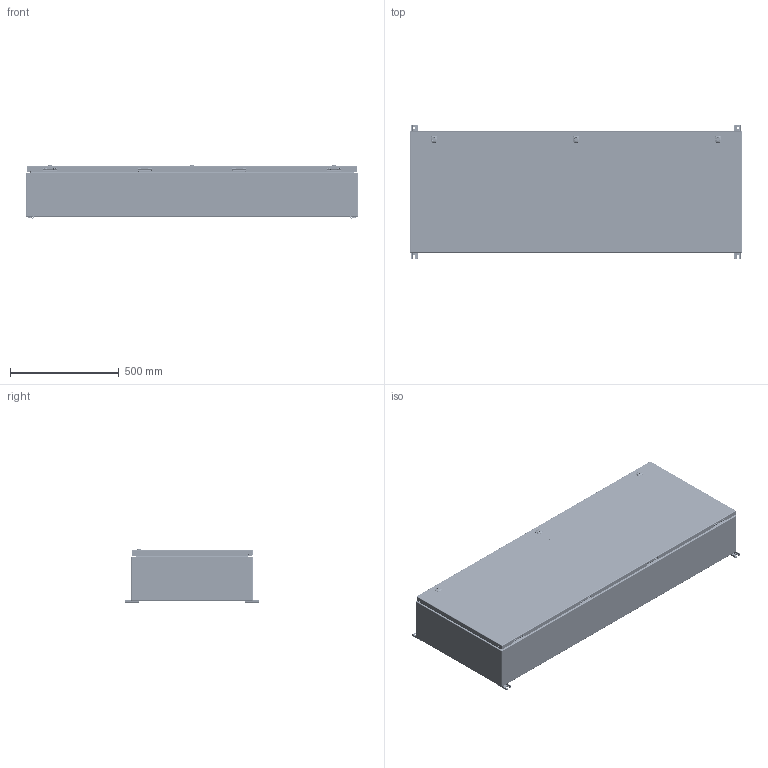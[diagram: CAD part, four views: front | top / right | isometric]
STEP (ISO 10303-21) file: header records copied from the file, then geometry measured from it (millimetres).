
FILE_DESCRIPTION(/* description */ ('1412BTSSCU 400A - 4 Wires x 60" Assembly'),/* implementation_level */ '2;1');
FILE_NAME(/* name */ 'C:\Vault_Workspace\Inventor_Dwg\BoxCad\Result\1412BTSSCU05404\e-mail\3D\1412BTSSCU05404.stp',/* time_stamp */ '2022-09-02T09:41:17-04:00',/* author */ ('BoxCad'),/* organization */ (''),/* preprocessor_version */ 'ST-DEVELOPER v18.1',/* originating_system */ 'Autodesk Inventor 2020',/* authorisation */ '');
FILE_SCHEMA (('AUTOMOTIVE_DESIGN { 1 0 10303 214 3 1 1 }'));
Products named in the file (51): 1412BTSSCU05404; 1412BTSSCU05404B; 1412BTSSCU05404B-P; STK-Q-16020; 1412BTSSCU05404C; 1412BTSSCU05404C-P; 1412BTSSCU05404G; STK-Q-16095; STK-K-09850-1; STK-Q-33019; STK-Q-90111; STK-Q-40096; STK-Q-63412; STK-S-00100; STK-A-880SCQ4-SLSS6-1; STK-A-880SCQ4-SLSS6-2; STK-A-880SCQ4-SLSS6-3; STK-Q-70621; STK-Q-70631; STK-Q-78145; STK-Q-03200; STK-Q-78125; STK-Q-90390; STK-Q-78160; STK-Q-78141; 1412BTSSCU05404IP1; 1412BTSSCU05404IP1-P; STK-P-02401S; STK-Q-07610; STK-A-67400; STK-Q-67400; STK-G-22300; STK-Q-67420; STK-Q-40800; STK-Q-67430; STK-Q-07310; 1412BTSSCU05404BAR1-P; 1412BTSSCU05404BAR2-P; 1412BTSSCU05404BAR3-P; 1412BTSSCU05404BAR4-P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
Assembly tree (126 placements, depth 4):
  1412BTSSCU05404
    1412BTSSCU05404B
      1412BTSSCU05404B-P
      STK-Q-16095
      STK-Q-16020  x8
      STK-S-00100
    1412BTSSCU05404C
      1412BTSSCU05404C-P
      1412BTSSCU05404G
      STK-Q-16095
      STK-K-09850-1  x4
        STK-Q-33019
        STK-Q-90111
        STK-Q-40096
        STK-Q-63412
      STK-S-00100
      STK-A-880SCQ4-SLSS6-1
        STK-Q-70621
        STK-Q-70631
        STK-Q-78145
        STK-Q-03200
        STK-Q-78125
        STK-Q-90390
        STK-Q-78160
        STK-Q-78141
      STK-A-880SCQ4-SLSS6-2
        STK-Q-70621
        STK-Q-70631
        STK-Q-78145
        STK-Q-03200
        STK-Q-78125
        STK-Q-90390
        STK-Q-78160
        STK-Q-78141
      STK-A-880SCQ4-SLSS6-3
        STK-Q-70621
        STK-Q-70631
        STK-Q-78145
        STK-Q-03200
        STK-Q-78125
        STK-Q-90390
        STK-Q-78160
        STK-Q-78141
    1412BTSSCU05404IP1
      1412BTSSCU05404IP1-P
      STK-P-02401S
    STK-Q-07610  x6
    STK-Q-07310  x18
    STK-A-67400  x12
      STK-Q-67400
      STK-G-22300
      STK-Q-67420
      STK-Q-40800
      STK-Q-67430
    1412BTSSCU05404BAR1-P
    1412BTSSCU05404BAR2-P
    1412BTSSCU05404BAR3-P
    1412BTSSCU05404BAR4-P
    1412BTSSCU05404MF
      885ESMF2-FEET  x2
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Bounding box: 1524 x 615.95 x 243.4 mm (x, y, z)
Volume: 8110458.6 mm3; surface area: 7913574.2 mm2
Topology: 200 solids, 200 shells, 28871 faces, 76056 edges, 47518 vertices
Faces by surface type: plane 10388, bspline 8184, cylinder 7319, torus 2053, sphere 618, cone 309
Full cylindrical faces by diameter (mm): 0.75 x10, 0.762 x10, 1 x16, 1.1 x16, 3.2 x8, 4.5 x48, 4.85 x32, 4.917 x4, 4.95 x8, 5.1 x33, 5.9 x78, 6.65 x12, 6.655 x8, 6.85 x72, 7.366 x8, 7.8 x492, 8 x34, 8.25 x24, 8.6 x12, 9.6 x3, 9.7 x48, 9.906 x4, 10 x7, 10.312 x2, 11.5 x24, 12 x16, 12.7 x2, 12.8 x3, 13 x3, 14 x8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
Entity records: 203308 total; most frequent: CARTESIAN_POINT 82384, ORIENTED_EDGE 27172, DIRECTION 20849, EDGE_CURVE 13586, VERTEX_POINT 8671, AXIS2_PLACEMENT_3D 7140, LINE 6569, VECTOR 6569
